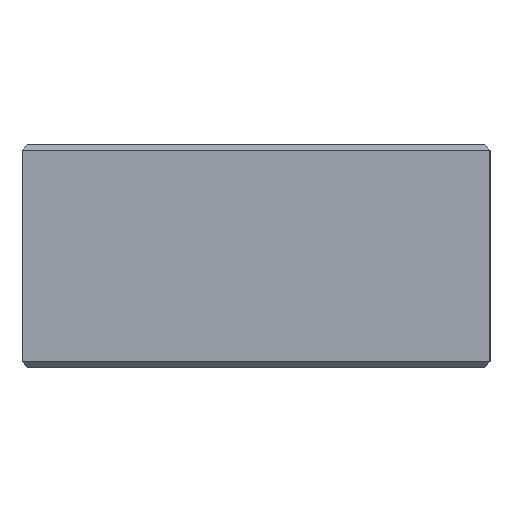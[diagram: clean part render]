
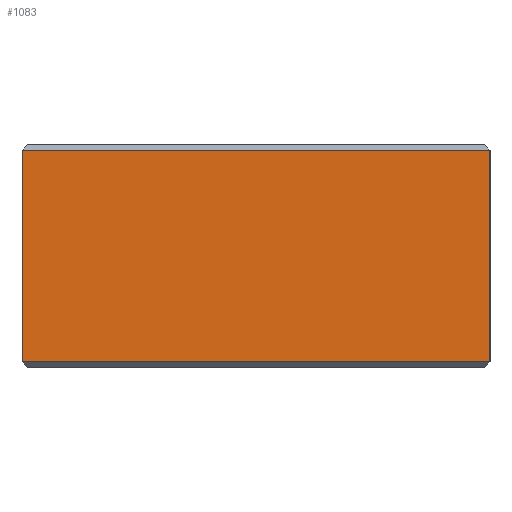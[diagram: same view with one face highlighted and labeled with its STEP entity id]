
A CAD part, left-side view. The second image highlights one B-rep face of the part: STEP entity #1083.
In plain terms, the highlighted planar face has unit normal (-1, 0, 0).
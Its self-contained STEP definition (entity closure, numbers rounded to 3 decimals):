
#51 = EDGE_CURVE ( 'NONE', #75, #74, #380, .T. ) ;
#53 = EDGE_CURVE ( 'NONE', #74, #76, #384, .T. ) ;
#54 = EDGE_CURVE ( 'NONE', #77, #76, #386, .T. ) ;
#55 = EDGE_CURVE ( 'NONE', #77, #75, #382, .T. ) ;
#74 = VERTEX_POINT ( 'NONE', #1278 ) ;
#75 = VERTEX_POINT ( 'NONE', #1277 ) ;
#76 = VERTEX_POINT ( 'NONE', #1287 ) ;
#77 = VERTEX_POINT ( 'NONE', #1299 ) ;
#188 = ORIENTED_EDGE ( 'NONE', *, *, #51, .T. ) ;
#189 = ORIENTED_EDGE ( 'NONE', *, *, #53, .T. ) ;
#190 = ORIENTED_EDGE ( 'NONE', *, *, #54, .F. ) ;
#191 = ORIENTED_EDGE ( 'NONE', *, *, #55, .T. ) ;
#230 = EDGE_LOOP ( 'NONE', ( #188, #189, #190, #191 ) ) ;
#380 = LINE ( 'NONE', #1308, #383 ) ;
#382 = LINE ( 'NONE', #1323, #391 ) ;
#383 = VECTOR ( 'NONE', #1306, 1000. ) ;
#384 = LINE ( 'NONE', #1304, #387 ) ;
#386 = LINE ( 'NONE', #1302, #389 ) ;
#387 = VECTOR ( 'NONE', #1303, 1000. ) ;
#389 = VECTOR ( 'NONE', #1300, 1000. ) ;
#391 = VECTOR ( 'NONE', #1298, 1000. ) ;
#506 = FACE_OUTER_BOUND ( 'NONE', #230, .T. ) ;
#764 = CARTESIAN_POINT ( 'NONE',  ( -40., -22., 10. ) ) ;
#766 = PLANE ( 'NONE',  #1191 ) ;
#767 = DIRECTION ( 'NONE',  ( 1., 0., 0. ) ) ;
#768 = DIRECTION ( 'NONE',  ( 0., 0., -1. ) ) ;
#1083 = ADVANCED_FACE ( 'NONE', ( #506 ), #766, .F. ) ;
#1191 = AXIS2_PLACEMENT_3D ( 'NONE', #764, #767, #768 ) ;
#1277 = CARTESIAN_POINT ( 'NONE',  ( -40., 20., 9.5 ) ) ;
#1278 = CARTESIAN_POINT ( 'NONE',  ( -40., 20., -9.5 ) ) ;
#1287 = CARTESIAN_POINT ( 'NONE',  ( -40., -22., -9.5 ) ) ;
#1298 = DIRECTION ( 'NONE',  ( 0., 1., 0. ) ) ;
#1299 = CARTESIAN_POINT ( 'NONE',  ( -40., -22., 9.5 ) ) ;
#1300 = DIRECTION ( 'NONE',  ( 0., 0., -1. ) ) ;
#1302 = CARTESIAN_POINT ( 'NONE',  ( -40., -22., 10. ) ) ;
#1303 = DIRECTION ( 'NONE',  ( 0., -1., 0. ) ) ;
#1304 = CARTESIAN_POINT ( 'NONE',  ( -40., -22., -9.5 ) ) ;
#1306 = DIRECTION ( 'NONE',  ( 0., 0., -1. ) ) ;
#1308 = CARTESIAN_POINT ( 'NONE',  ( -40., 20., 10. ) ) ;
#1323 = CARTESIAN_POINT ( 'NONE',  ( -40., -22., 9.5 ) ) ;
